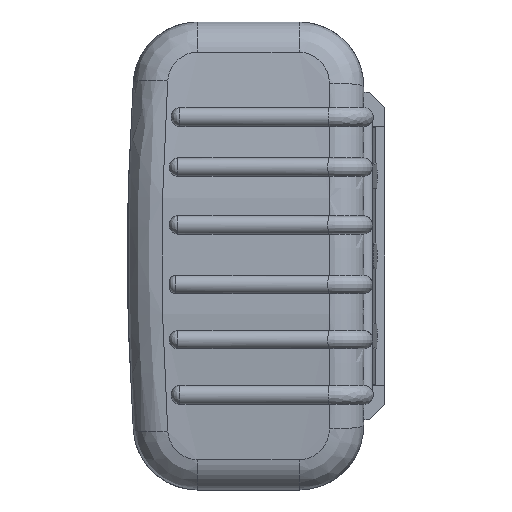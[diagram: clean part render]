
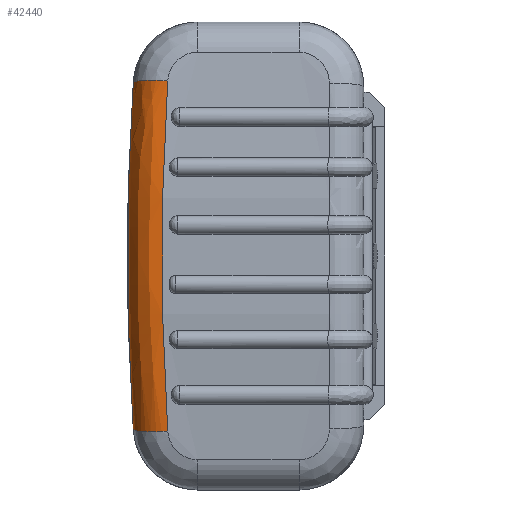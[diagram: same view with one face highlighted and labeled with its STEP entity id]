
A CAD part, left-side view. The second image highlights one B-rep face of the part: STEP entity #42440.
In plain terms, the highlighted free-form (B-spline) face has degree [3, 2] with [6, 3] control points.
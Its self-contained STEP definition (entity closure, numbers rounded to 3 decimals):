
#70 = CARTESIAN_POINT ( 'NONE',  ( 88.449, 53.371, -41.074 ) ) ;
#225 = CARTESIAN_POINT ( 'NONE',  ( 89.935, 54.311, 27.357 ) ) ;
#1082 = CARTESIAN_POINT ( 'NONE',  ( 89.95, 46.334, 27.032 ) ) ;
#3606 = CARTESIAN_POINT ( 'NONE',  ( 80.55, 53.428, -40.234 ) ) ;
#3756 = CARTESIAN_POINT ( 'NONE',  ( 80.55, 53.428, 40.234 ) ) ;
#3957 = ORIENTED_EDGE ( 'NONE', *, *, #33496, .F. ) ;
#5469 = VERTEX_POINT ( 'NONE', #21836 ) ;
#7109 = CARTESIAN_POINT ( 'NONE',  ( 89.935, 54.311, -27.357 ) ) ;
#7231 = CARTESIAN_POINT ( 'NONE',  ( 80.55, 53.428, -40.234 ) ) ;
#7256 = CARTESIAN_POINT ( 'NONE',  ( 88.505, 45.446, 40.548 ) ) ;
#9816 = DIRECTION ( 'NONE',  ( 0.106, 0.067, 0.992 ) ) ;
#10588 = CARTESIAN_POINT ( 'NONE',  ( 82.667, 54.777, -13.411 ) ) ;
#11461 = CARTESIAN_POINT ( 'NONE',  ( 89.95, 46.334, -27.032 ) ) ;
#11543 = CARTESIAN_POINT ( 'NONE',  ( 83.368, 55.225, 0. ) ) ;
#13956 = AXIS2_PLACEMENT_3D ( 'NONE', #16816, #41128, #20322 ) ;
#14065 = CARTESIAN_POINT ( 'NONE',  ( 90.667, 46.777, -13.516 ) ) ;
#14132 = EDGE_LOOP ( 'NONE', ( #24102, #3957, #17903, #33144 ) ) ;
#14852 = CARTESIAN_POINT ( 'NONE',  ( 88.505, 45.446, 40.548 ) ) ;
#15038 = CARTESIAN_POINT ( 'NONE',  ( 80.55, 53.428, -40.234 ) ) ;
#15341 = FACE_OUTER_BOUND ( 'NONE', #14132, .T. ) ;
#16816 = CARTESIAN_POINT ( 'NONE',  ( 80.55, 45.446, 39.698 ) ) ;
#17478 = EDGE_CURVE ( 'NONE', #23916, #5469, #23960, .T. ) ;
#17567 = CARTESIAN_POINT ( 'NONE',  ( 90.667, 54.777, 13.695 ) ) ;
#17903 = ORIENTED_EDGE ( 'NONE', *, *, #17478, .F. ) ;
#20322 = DIRECTION ( 'NONE',  ( 0.994, 0., 0.106 ) ) ;
#21053 = CARTESIAN_POINT ( 'NONE',  ( 81.965, 54.328, 26.823 ) ) ;
#21836 = CARTESIAN_POINT ( 'NONE',  ( 80.55, 53.428, 40.234 ) ) ;
#21857 = CARTESIAN_POINT ( 'NONE',  ( 80.55, 53.428, 40.234 ) ) ;
#21927 = CARTESIAN_POINT ( 'NONE',  ( 91.383, 47.219, 0. ) ) ;
#23916 = VERTEX_POINT ( 'NONE', #14852 ) ;
#23960 = CIRCLE ( 'NONE', #13956, 8. ) ;
#24102 = ORIENTED_EDGE ( 'NONE', *, *, #37717, .T. ) ;
#24522 = CARTESIAN_POINT ( 'NONE',  ( 89.95, 46.334, 27.032 ) ) ;
#25380 = CARTESIAN_POINT ( 'NONE',  ( 88.505, 45.446, 40.548 ) ) ;
#26253 = CARTESIAN_POINT ( 'NONE',  ( 88.505, 45.446, -40.548 ) ) ;
#26431 = CIRCLE ( 'NONE', #35642, 8. ) ;
#27875 = CARTESIAN_POINT ( 'NONE',  ( 81.965, 54.328, -26.823 ) ) ;
#28025 = CARTESIAN_POINT ( 'NONE',  ( 88.449, 53.371, 41.074 ) ) ;
#28782 = B_SPLINE_CURVE_WITH_KNOTS ( 'NONE', 3,
 ( #35729, #11461, #21927, #1082, #25380 ),
 .UNSPECIFIED., .F., .F.,
 ( 4, 1, 4 ),
 ( 0., 0.041, 0.081 ),
 .UNSPECIFIED. ) ;
#28833 = CARTESIAN_POINT ( 'NONE',  ( 81.965, 54.328, 26.822 ) ) ;
#30574 = CARTESIAN_POINT ( 'NONE',  ( 80.55, 45.446, -39.698 ) ) ;
#30952 =( BOUNDED_SURFACE ( )  B_SPLINE_SURFACE ( 3, 2, ( 
 ( #3606, #70, #38205 ),
 ( #27875, #7109, #31355 ),
 ( #10588, #34850, #14065 ),
 ( #38364, #17567, #41874 ),
 ( #21053, #225, #24522 ),
 ( #3756, #28025, #7256 ) ),
 .UNSPECIFIED., .F., .F., .F. ) 
 B_SPLINE_SURFACE_WITH_KNOTS ( ( 4, 2, 4 ),
 ( 3, 3 ),
 ( 0., 0.04, 0.079 ),
 ( 0., 1. ),
 .UNSPECIFIED. ) 
 GEOMETRIC_REPRESENTATION_ITEM ( )  RATIONAL_B_SPLINE_SURFACE ( (
 ( 1., 0.71, 1.),
 ( 1., 0.708, 1.),
 ( 1., 0.707, 1.),
 ( 1., 0.707, 1.),
 ( 1., 0.708, 1.),
 ( 1., 0.71, 1.) ) ) 
 REPRESENTATION_ITEM ( '' )  SURFACE ( )  );
#31355 = CARTESIAN_POINT ( 'NONE',  ( 89.95, 46.334, -27.032 ) ) ;
#32521 = VERTEX_POINT ( 'NONE', #7231 ) ;
#32709 = B_SPLINE_CURVE_WITH_KNOTS ( 'NONE', 3,
 ( #21857, #28833, #11543, #35804, #15038 ),
 .UNSPECIFIED., .F., .F.,
 ( 4, 1, 4 ),
 ( 0., 0.04, 0.08 ),
 .UNSPECIFIED. ) ;
#33144 = ORIENTED_EDGE ( 'NONE', *, *, #37901, .F. ) ;
#33496 = EDGE_CURVE ( 'NONE', #5469, #32521, #32709, .T. ) ;
#34065 = DIRECTION ( 'NONE',  ( 0.994, 0., -0.106 ) ) ;
#34850 = CARTESIAN_POINT ( 'NONE',  ( 90.667, 54.777, -13.695 ) ) ;
#35642 = AXIS2_PLACEMENT_3D ( 'NONE', #30574, #9816, #34065 ) ;
#35729 = CARTESIAN_POINT ( 'NONE',  ( 88.505, 45.446, -40.548 ) ) ;
#35804 = CARTESIAN_POINT ( 'NONE',  ( 81.965, 54.328, -26.822 ) ) ;
#36882 = VERTEX_POINT ( 'NONE', #26253 ) ;
#37717 = EDGE_CURVE ( 'NONE', #36882, #32521, #26431, .T. ) ;
#37901 = EDGE_CURVE ( 'NONE', #36882, #23916, #28782, .T. ) ;
#38205 = CARTESIAN_POINT ( 'NONE',  ( 88.505, 45.446, -40.548 ) ) ;
#38364 = CARTESIAN_POINT ( 'NONE',  ( 82.667, 54.777, 13.411 ) ) ;
#41128 = DIRECTION ( 'NONE',  ( -0.106, -0.067, 0.992 ) ) ;
#41874 = CARTESIAN_POINT ( 'NONE',  ( 90.667, 46.777, 13.516 ) ) ;
#42440 = ADVANCED_FACE ( 'NONE', ( #15341 ), #30952, .T. ) ;
